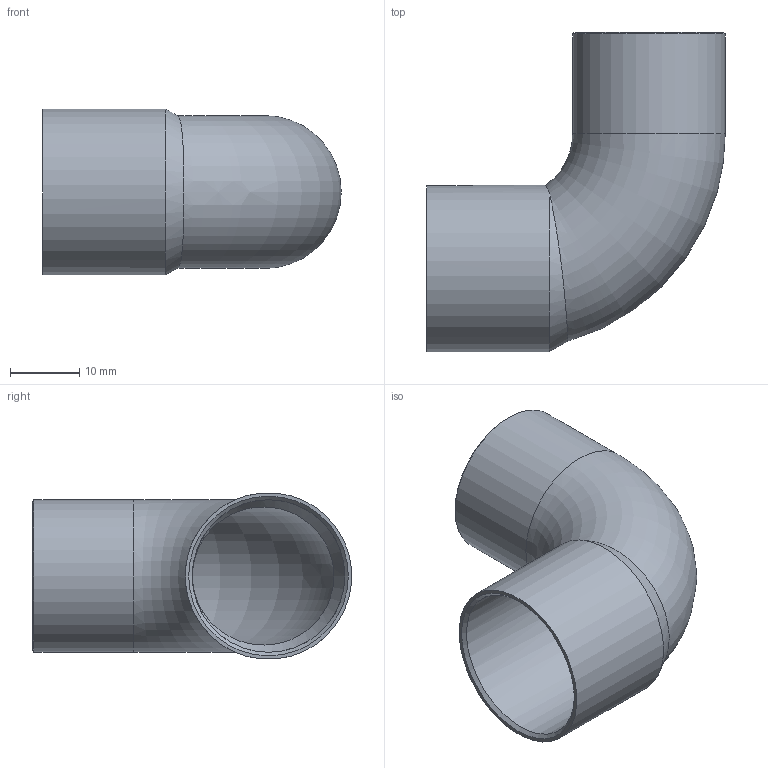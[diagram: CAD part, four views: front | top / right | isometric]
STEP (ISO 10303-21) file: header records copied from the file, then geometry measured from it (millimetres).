
FILE_DESCRIPTION((''),'2;1');
FILE_NAME('Z:\Technik\Management\Bouwmaten + markeringen\z-maattekeningen 3D\5000\5092\1509222(0)_gem.stp','2020-07-27T16:06:15',('vdvijverd'),(''),'Autodesk Inventor 2009','Autodesk Inventor 2009','');
FILE_SCHEMA(('AUTOMOTIVE_DESIGN { 1 0 10303 214 1 1 1 1 }'));
Length unit declared in the file: millimetre
Products named in the file (1): 1509222(0)
Bounding box: 43 x 45.95 x 23.91 mm (x, y, z)
Volume: 4060.1 mm3; surface area: 7998.6 mm2
Topology: 1 solids, 1 shells, 12 faces, 25 edges, 15 vertices
Faces by surface type: cone 4, cylinder 4, plane 2, torus 2
Full cylindrical faces by diameter (mm): 19.9 x1, 22 x2, 24 x1
Entity records: 346 total; most frequent: CARTESIAN_POINT 113, DIRECTION 46, ORIENTED_EDGE 26, AXIS2_PLACEMENT_3D 23, EDGE_LOOP 23, EDGE_CURVE 13, VERTEX_POINT 12, FACE_OUTER_BOUND 12
